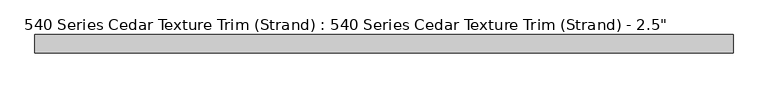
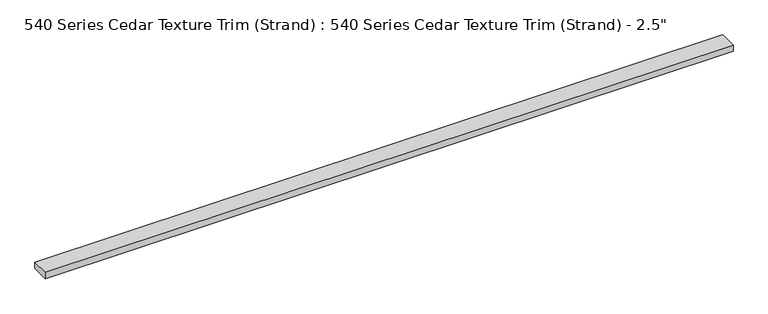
"""IFC4 building model written with IfcOpenShell, lengths in millimetres: proxy geometry."""

from ifc_helpers import new_model, si_unit, origin, origin_with_axes, place, context, project, spatial, polyline, outline, extrude, source, transform, mapped, element, save


def proxy_ab0e0719(model_context):
    return source(origin(), model_context, "Body", "SweptSolid", [
        extrude(outline(polyline([(2438.4, 0.0), (0.0, 0.0), (0.0, 63.5), (2438.4, 63.5), (2438.4, 0.0)])), origin_with_axes(), (0.0, 0.0, 1.0), 23.1179687),
    ])


if __name__ == "__main__":
    model = new_model("IFC4")
    model_context = context("Model", 3, world=origin())
    ifc_project = project(units=[si_unit("LENGTHUNIT", "METRE", prefix="MILLI")], contexts=[model_context])
    site = spatial("IfcSite", under=ifc_project)
    building = spatial("IfcBuilding", under=site)
    placement = place(None, origin())
    proxy_shape = proxy_ab0e0719(model_context)
    element("IfcBuildingElementProxy", 1, Name="540 Series Cedar Texture Trim (Strand) : 540 Series Cedar Texture Trim (Strand) - 2.5\"", ObjectType="540 Series Cedar Texture Trim (Strand) : 540 Series Cedar Texture Trim (Strand) - 2.5\"", at=placement, inside=building, context=model_context, shape_type="MappedRepresentation", body=[
        mapped(proxy_shape, transform((0.0, 0.0, 0.0), x_axis=(1.0, 0.0, 0.0), y_axis=(0.0, 1.0, 0.0), z_axis=(0.0, 0.0, 1.0))),
    ])
    save(model, "model.ifc")
